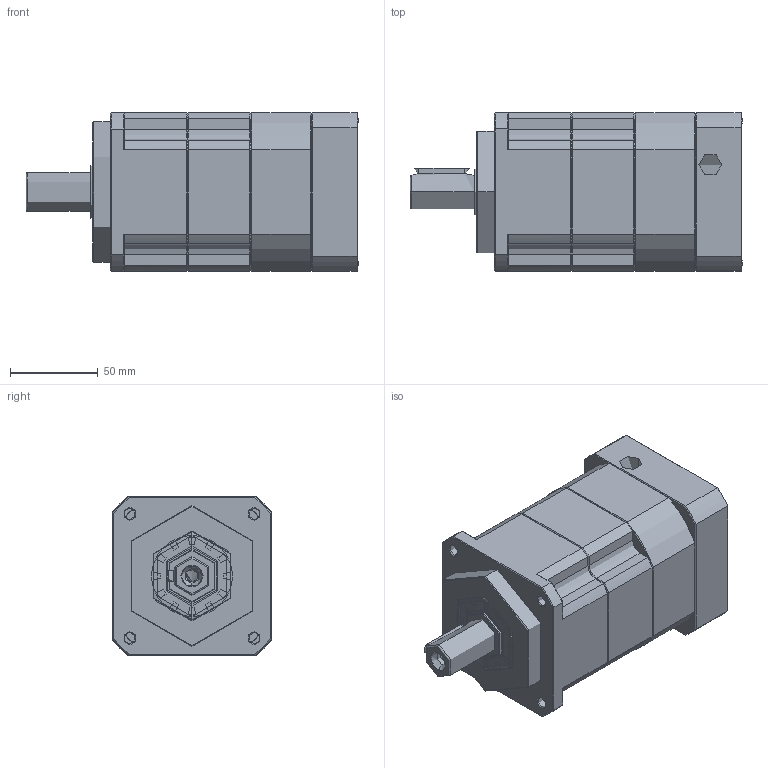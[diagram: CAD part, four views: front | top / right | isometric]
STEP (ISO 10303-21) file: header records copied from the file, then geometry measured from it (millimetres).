
FILE_DESCRIPTION (( 'STEP AP214' ), '1' );
FILE_NAME ('ZPB090-D22-L2-P1-16-80-100-M6.step', '2024-06-07T18:20:46', ( 'Windows 蚚誧' ), ( 'Organization' ), 'SwSTEP 2.0', 'SolidWorks 2016', '' );
FILE_SCHEMA (( 'AUTOMOTIVE_DESIGN' ));
Length unit declared in the file: millimetre
Products named in the file (1): ZPB090-D22-L2-P1-16-80-100-M6
Bounding box: 189 x 90 x 90 mm (x, y, z)
Topology: 0 solids, 34 shells, 1896 faces, 5029 edges, 3187 vertices
Faces by surface type: plane 972, bspline 387, cone 291, cylinder 244, torus 2
Full cylindrical faces by diameter (mm): 6.72 x4
Entity records: 96703 total; most frequent: CARTESIAN_POINT 48347, ORIENTED_EDGE 9914, DIRECTION 7700, EDGE_CURVE 4978, VECTOR 3276, LINE 3276, VERTEX_POINT 3156, AXIS2_PLACEMENT_3D 2212
